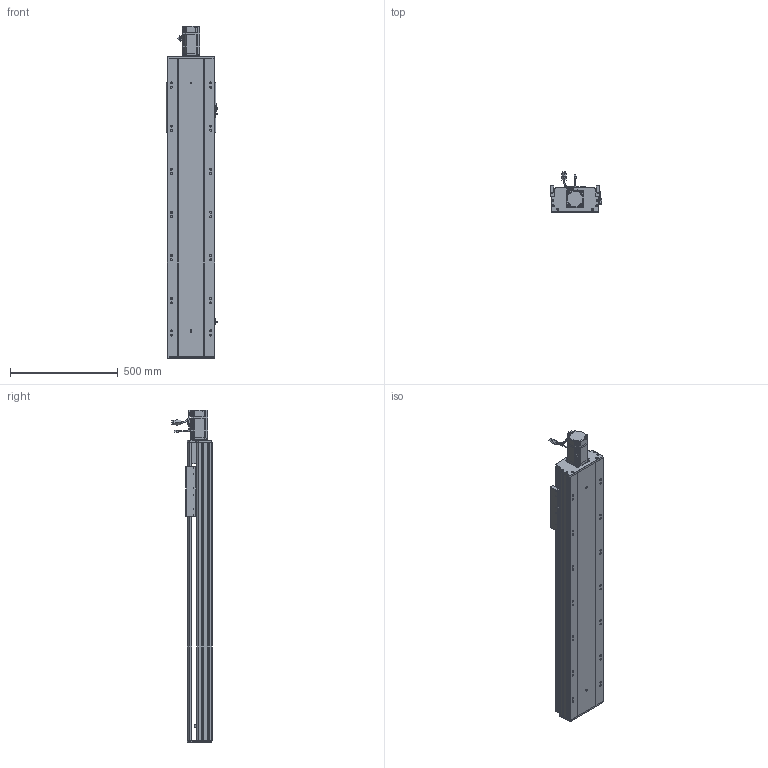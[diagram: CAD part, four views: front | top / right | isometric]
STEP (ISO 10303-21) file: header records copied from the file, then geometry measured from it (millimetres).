
FILE_DESCRIPTION (( 'STEP AP203' ), '1' );
FILE_NAME ('RY220-L2525-800-MK-邧嶺.SLDASM_950.step', '2022-08-06T08:57:24', ( '' ), ( '' ), 'SwSTEP 2.0', 'SolidWorks 2016', '' );
FILE_SCHEMA (( 'CONFIG_CONTROL_DESIGN' ));
Length unit declared in the file: millimetre
Products named in the file (12): 滅袉蝶18-12; 怢湛750W_ECMA-CX0807ES; RY220-俋离672覜茼んえ; RY220菁釱MK-800-邧嶺_950; RY220綴裔啣; 滅袉蝶18-15; RY220-800-奻裔啣-MK_950; 覜茼ん672; RY220电机支撑座FK20（PCD90M6）; RY220ヶ裔啣; RY220-L2525-800-MK-邧嶺.SLDASM_950; RY220半封闭25-32螺母铝滑块
Assembly tree (15 placements, depth 2):
  RY220-L2525-800-MK-邧嶺.SLDASM_950
    RY220菁釱MK-800-邧嶺_950
    RY220电机支撑座FK20（PCD90M6）
    怢湛750W_ECMA-CX0807ES
    滅袉蝶18-12  x2
    RY220ヶ裔啣
    RY220綴裔啣
    覜茼ん672  x3
    RY220半封闭25-32螺母铝滑块
    RY220-800-奻裔啣-MK_950
    RY220-俋离672覜茼んえ
    滅袉蝶18-15  x2
Bounding box: 238.7 x 187.27 x 1540.3 mm (x, y, z)
Volume: 12225716.7 mm3; surface area: 3390208.8 mm2
Topology: 16 solids, 16 shells, 2226 faces, 6170 edges, 3896 vertices
Faces by surface type: cylinder 1000, plane 915, cone 249, bspline 36, sphere 16, torus 10
Entity records: 73144 total; most frequent: CARTESIAN_POINT 20767, ORIENTED_EDGE 10880, DIRECTION 10279, EDGE_CURVE 5440, AXIS2_PLACEMENT_3D 3611, VERTEX_POINT 3552, LINE 3057, VECTOR 3057
